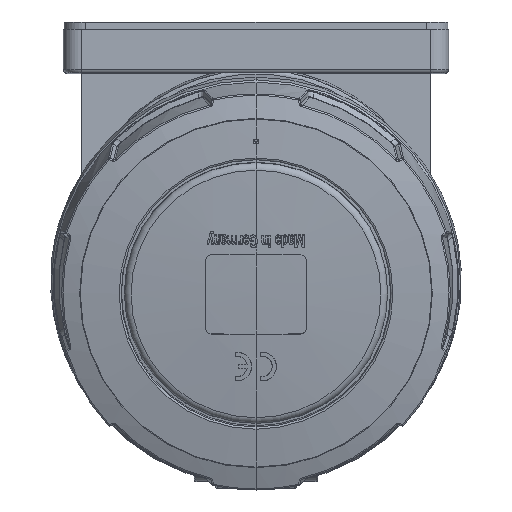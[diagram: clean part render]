
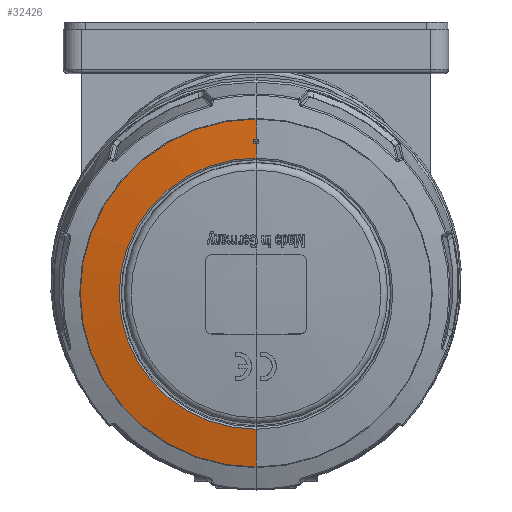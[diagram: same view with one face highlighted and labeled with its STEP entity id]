
A CAD part, top view. The second image highlights one B-rep face of the part: STEP entity #32426.
In plain terms, the highlighted conical face has half-angle 84 degrees and reference radius 42.982 mm.
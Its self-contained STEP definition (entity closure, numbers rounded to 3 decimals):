
#4195=CARTESIAN_POINT('',(0.,-19.653,
116.677));
#4196=CARTESIAN_POINT('',(-0.076,-19.653,
116.677));
#4197=CARTESIAN_POINT('',(-0.222,-19.633,
116.678));
#4198=CARTESIAN_POINT('',(-0.426,-19.545,
116.681));
#4199=CARTESIAN_POINT('',(-0.596,-19.409,
116.685));
#4200=CARTESIAN_POINT('',(-0.721,-19.236,
116.691));
#4201=CARTESIAN_POINT('',(-0.789,-19.05,
116.697));
#4202=CARTESIAN_POINT('',(-0.806,-18.88,
116.703));
#4203=CARTESIAN_POINT('',(-0.787,-18.73,
116.709));
#4204=CARTESIAN_POINT('',(-0.743,-18.604,
116.713));
#4205=CARTESIAN_POINT('',(-0.682,-18.502,
116.717));
#4206=CARTESIAN_POINT('',(-0.612,-18.423,
116.72));
#4207=CARTESIAN_POINT('',(-0.537,-18.366,
116.722));
#4208=CARTESIAN_POINT('',(-0.46,-18.331,
116.723));
#4209=CARTESIAN_POINT('',(-0.411,-18.321,
116.723));
#4210=CARTESIAN_POINT('',(-0.387,-18.321,
116.723));
#4215=DIRECTION('',(0.,-0.999,-0.035));
#4216=VECTOR('',#4215,3.874);
#4217=CARTESIAN_POINT('',(0.,-19.653,
116.677));
#4218=LINE('3867',#4217,#4216);
#4222=CARTESIAN_POINT('',(0.,-60.796,111.304));
#4223=DIRECTION('',(0.,-0.139,0.99));
#4224=DIRECTION('',(0.,0.99,0.139));
#4225=AXIS2_PLACEMENT_3D('',#4222,#4223,#4224);
#4230=DIRECTION('',(0.,0.97,0.242));
#4231=VECTOR('',#4230,10.748);
#4232=CARTESIAN_POINT('',(0.,-108.496,
103.465));
#4233=LINE('3861',#4232,#4231);
#4237=CARTESIAN_POINT('',(0.,-60.64,110.191));
#4238=DIRECTION('',(0.,-0.139,0.99));
#4239=DIRECTION('',(0.,0.99,0.139));
#4240=AXIS2_PLACEMENT_3D('',#4237,#4238,#4239);
#4245=DIRECTION('',(0.,-0.999,-0.035));
#4246=VECTOR('',#4245,5.539);
#4247=CARTESIAN_POINT('',(0.,-12.783,
116.917));
#4248=LINE('3866',#4247,#4246);
#4252=CARTESIAN_POINT('',(0.,-60.72,110.765));
#4253=DIRECTION('',(0.,0.139,-0.99));
#4254=DIRECTION('',(-0.009,0.99,0.139));
#4255=AXIS2_PLACEMENT_3D('',#4252,#4253,#4254);
#4283=CARTESIAN_POINT('',(0.,-19.653,
116.677));
#27593=CARTESIAN_POINT('',(0.,-98.068,106.066));
#27594=CARTESIAN_POINT('',(0.,-23.525,116.542));
#27595=VERTEX_POINT('',#27593);
#27596=VERTEX_POINT('',#27594);
#27634=CARTESIAN_POINT('',(0.,-12.783,116.917));
#27635=CARTESIAN_POINT('',(0.,-108.496,
103.465));
#27636=VERTEX_POINT('',#27634);
#27637=VERTEX_POINT('',#27635);
#27643=VERTEX_POINT('',#4283);
#27644=VERTEX_POINT('',#4210);
#27645=CARTESIAN_POINT('',(0.,-18.319,
116.724));
#27646=VERTEX_POINT('',#27645);
#32406=CARTESIAN_POINT('',(0.,-60.718,110.747));
#32407=DIRECTION('',(0.,0.139,-0.99));
#32408=DIRECTION('',(0.,-0.99,-0.139));
#32409=AXIS2_PLACEMENT_3D('',#32406,#32407,#32408);
#32410=CONICAL_SURFACE('1199',#32409,42.982,84.);
#32412=ORIENTED_EDGE('3865',*,*,#32411,.F.);
#32414=ORIENTED_EDGE('3867',*,*,#32413,.T.);
#32416=ORIENTED_EDGE('3800',*,*,#32415,.T.);
#32418=ORIENTED_EDGE('3861',*,*,#32417,.F.);
#32419=ORIENTED_EDGE('3857',*,*,#32384,.F.);
#32421=ORIENTED_EDGE('3866',*,*,#32420,.T.);
#32423=ORIENTED_EDGE('3869',*,*,#32422,.F.);
#32424=EDGE_LOOP('1199',(#32412,#32414,#32416,#32418,#32419,#32421,#32423));
#32425=FACE_OUTER_BOUND('1199',#32424,.F.);
#4211=B_SPLINE_CURVE_WITH_KNOTS('3865',3,(#4195,#4196,#4197,#4198,#4199,#4200,
#4201,#4202,#4203,#4204,#4205,#4206,#4207,#4208,#4209,#4210),.UNSPECIFIED.,.F.,
.F.,(4,1,1,1,1,1,1,1,1,1,1,1,1,4),(0.,0.077,0.154,
0.231,0.308,0.385,0.462,
0.538,0.615,0.692,0.769,
0.846,0.923,1.),.UNSPECIFIED.);
#4226=CIRCLE('3800',#4225,37.638);
#4241=CIRCLE('3857',#4240,48.327);
#4256=CIRCLE('3869',#4255,42.818);
#32384=EDGE_CURVE('3857',#27636,#27637,#4241,.T.);
#32411=EDGE_CURVE('3865',#27643,#27644,#4211,.T.);
#32413=EDGE_CURVE('3867',#27643,#27596,#4218,.T.);
#32415=EDGE_CURVE('3800',#27596,#27595,#4226,.T.);
#32417=EDGE_CURVE('3861',#27637,#27595,#4233,.T.);
#32420=EDGE_CURVE('3866',#27636,#27646,#4248,.T.);
#32422=EDGE_CURVE('3869',#27644,#27646,#4256,.T.);
#32426=ADVANCED_FACE('1199',(#32425),#32410,.T.);
